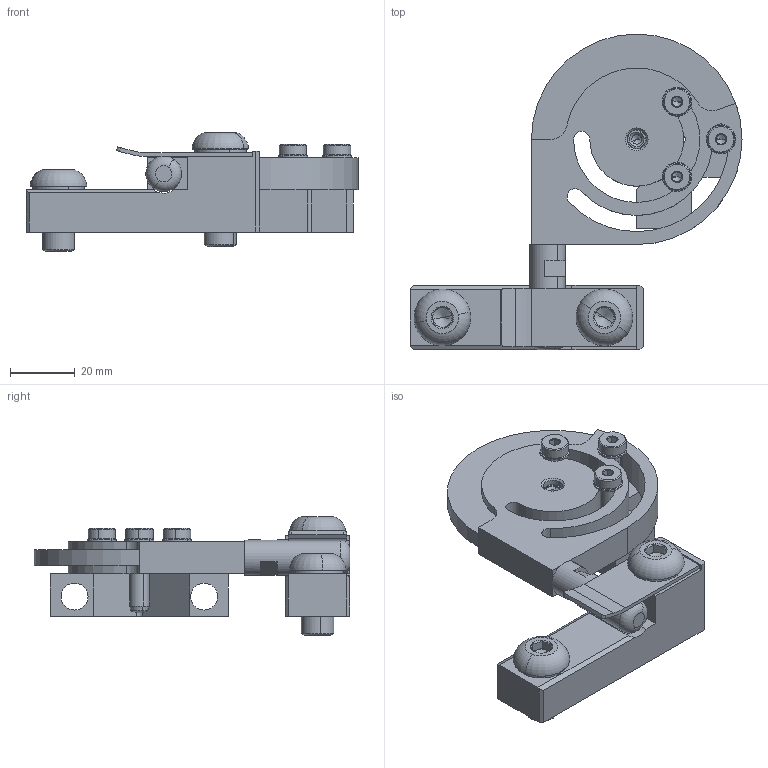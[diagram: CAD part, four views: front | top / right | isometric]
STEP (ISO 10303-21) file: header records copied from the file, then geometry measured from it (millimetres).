
FILE_DESCRIPTION (( 'STEP AP214' ), '1' );
FILE_NAME ('AL63-D.STEP', '2019-04-15T08:20:08', ( '' ), ( '' ), 'SwSTEP 2.0', 'SolidWorks 2018', '' );
FILE_SCHEMA (( 'AUTOMOTIVE_DESIGN' ));
Length unit declared in the file: millimetre
Products named in the file (12): Disco_posizionatore_09219; perno_aggancio_leva_cpr50_63_06116; AL63-D; rondella_schnorr_m10_1_260; spina_cilindrica_6x20_m4_din7979_1_161; supporto_06233; Tassello_leva_dx_09221_dx; vite_tcbei_m10x20_iso7380_1_110; rondella_schnorr_ m5_1_279; bandella_reazione_06235; vite_tcei_tr_m5x16_din7984_1_066; vite_tcbei_m10x30_iso7380_1_111
Assembly tree (16 placements, depth 2):
  AL63-D
    Tassello_leva_dx_09221_dx
    Disco_posizionatore_09219
    perno_aggancio_leva_cpr50_63_06116
    supporto_06233
    bandella_reazione_06235
    rondella_schnorr_m10_1_260  x2
    vite_tcbei_m10x20_iso7380_1_110
    vite_tcbei_m10x30_iso7380_1_111
    spina_cilindrica_6x20_m4_din7979_1_161
    vite_tcei_tr_m5x16_din7984_1_066  x3
    rondella_schnorr_ m5_1_279  x3
Bounding box: 102.5 x 97.5 x 36.7 mm (x, y, z)
Volume: 66798.7 mm3; surface area: 32407.3 mm2
Topology: 16 solids, 16 shells, 350 faces, 817 edges, 490 vertices
Faces by surface type: plane 137, cone 98, cylinder 97, torus 16, sphere 2
Entity records: 8639 total; most frequent: CARTESIAN_POINT 1500, DIRECTION 1429, ORIENTED_EDGE 1246, EDGE_CURVE 623, AXIS2_PLACEMENT_3D 545, VERTEX_POINT 388, VECTOR 339, LINE 339
